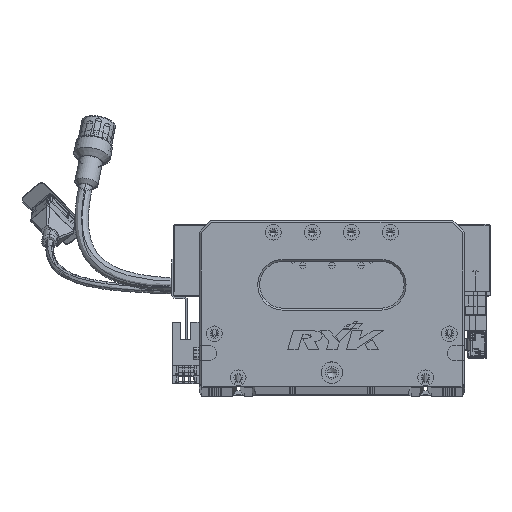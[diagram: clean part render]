
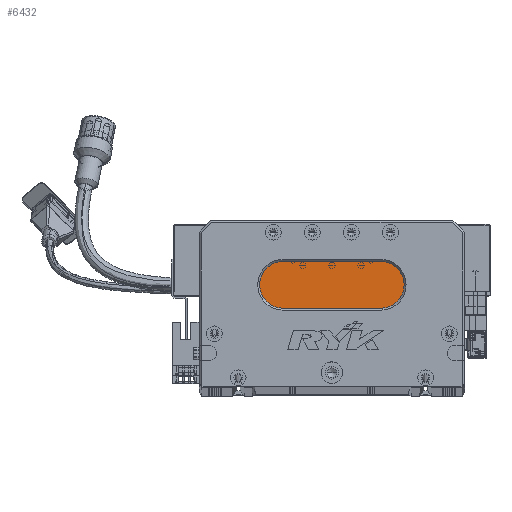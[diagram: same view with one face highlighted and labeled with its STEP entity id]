
A CAD part, top view. The second image highlights one B-rep face of the part: STEP entity #6432.
In plain terms, the highlighted planar face has unit normal (0, 0, 1) as drawn and (0, 0, -1) by its records, which use the part's own axes.
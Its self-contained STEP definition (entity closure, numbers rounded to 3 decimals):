
#475 = CARTESIAN_POINT ( 'NONE',  ( 43., 52., 13. ) ) ;
#6432 = ADVANCED_FACE ( 'NONE', ( #81693 ), #125598, .T. ) ;
#8814 = CARTESIAN_POINT ( 'NONE',  ( 93., 40., 13. ) ) ;
#11107 = DIRECTION ( 'NONE',  ( 0., 0., -1. ) ) ;
#12893 = CIRCLE ( 'NONE', #91572, 12. ) ;
#13152 = ORIENTED_EDGE ( 'NONE', *, *, #109776, .T. ) ;
#15160 = CARTESIAN_POINT ( 'NONE',  ( 93., 40., 13. ) ) ;
#16085 = ORIENTED_EDGE ( 'NONE', *, *, #82510, .T. ) ;
#16644 = EDGE_CURVE ( 'NONE', #46191, #123337, #12893, .T. ) ;
#23873 = DIRECTION ( 'NONE',  ( -1., 0., 0. ) ) ;
#25065 = CARTESIAN_POINT ( 'NONE',  ( 93., 52., 13. ) ) ;
#30834 = AXIS2_PLACEMENT_3D ( 'NONE', #25065, #65132, #95618 ) ;
#39005 = CARTESIAN_POINT ( 'NONE',  ( 43., 40., 13. ) ) ;
#45033 = CARTESIAN_POINT ( 'NONE',  ( 43., 52., 13. ) ) ;
#46089 = CARTESIAN_POINT ( 'NONE',  ( 93., 64., 13. ) ) ;
#46191 = VERTEX_POINT ( 'NONE', #46089 ) ;
#50143 = AXIS2_PLACEMENT_3D ( 'NONE', #45033, #115146, #23873 ) ;
#51172 = DIRECTION ( 'NONE',  ( 0., 0., -1. ) ) ;
#52845 = CIRCLE ( 'NONE', #50143, 12. ) ;
#53898 = CARTESIAN_POINT ( 'NONE',  ( 31., 52., 13. ) ) ;
#58433 = VERTEX_POINT ( 'NONE', #53898 ) ;
#60248 = LINE ( 'NONE', #78004, #126616 ) ;
#60325 = CIRCLE ( 'NONE', #121780, 12. ) ;
#60739 = CARTESIAN_POINT ( 'NONE',  ( 43., 64., 13. ) ) ;
#65132 = DIRECTION ( 'NONE',  ( 0., 0., -1. ) ) ;
#69769 = CARTESIAN_POINT ( 'NONE',  ( 93., 52., 13. ) ) ;
#69778 = EDGE_CURVE ( 'NONE', #92237, #58433, #60325, .T. ) ;
#71888 = DIRECTION ( 'NONE',  ( -1., 0., 0. ) ) ;
#74048 = EDGE_CURVE ( 'NONE', #123337, #92237, #130732, .T. ) ;
#78004 = CARTESIAN_POINT ( 'NONE',  ( 93., 64., 13. ) ) ;
#78413 = DIRECTION ( 'NONE',  ( 1., 0., 0. ) ) ;
#81693 = FACE_OUTER_BOUND ( 'NONE', #93360, .T. ) ;
#82510 = EDGE_CURVE ( 'NONE', #87307, #46191, #60248, .T. ) ;
#84934 = ORIENTED_EDGE ( 'NONE', *, *, #69778, .T. ) ;
#86638 = ORIENTED_EDGE ( 'NONE', *, *, #74048, .T. ) ;
#87307 = VERTEX_POINT ( 'NONE', #60739 ) ;
#91572 = AXIS2_PLACEMENT_3D ( 'NONE', #69769, #11107, #102441 ) ;
#92237 = VERTEX_POINT ( 'NONE', #39005 ) ;
#93360 = EDGE_LOOP ( 'NONE', ( #111003, #86638, #84934, #13152, #16085 ) ) ;
#95618 = DIRECTION ( 'NONE',  ( -1., 0., 0. ) ) ;
#102441 = DIRECTION ( 'NONE',  ( -1., 0., 0. ) ) ;
#103987 = VECTOR ( 'NONE', #125846, 1000. ) ;
#109776 = EDGE_CURVE ( 'NONE', #58433, #87307, #52845, .T. ) ;
#111003 = ORIENTED_EDGE ( 'NONE', *, *, #16644, .T. ) ;
#115146 = DIRECTION ( 'NONE',  ( 0., 0., -1. ) ) ;
#121780 = AXIS2_PLACEMENT_3D ( 'NONE', #475, #51172, #71888 ) ;
#123337 = VERTEX_POINT ( 'NONE', #8814 ) ;
#125598 = PLANE ( 'NONE',  #30834 ) ;
#125846 = DIRECTION ( 'NONE',  ( -1., 0., 0. ) ) ;
#126616 = VECTOR ( 'NONE', #78413, 1000. ) ;
#130732 = LINE ( 'NONE', #15160, #103987 ) ;
